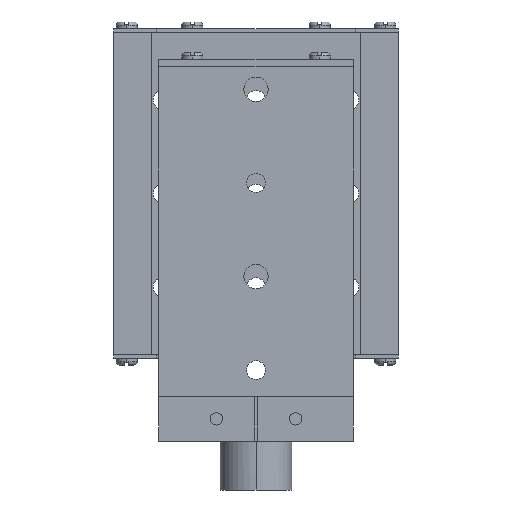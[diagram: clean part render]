
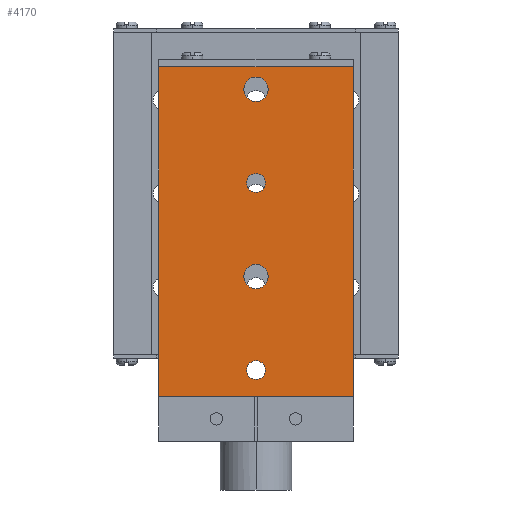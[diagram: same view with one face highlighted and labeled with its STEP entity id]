
A CAD part, left-side view. The second image highlights one B-rep face of the part: STEP entity #4170.
In plain terms, the highlighted planar face has unit normal (-1, 0, 0).
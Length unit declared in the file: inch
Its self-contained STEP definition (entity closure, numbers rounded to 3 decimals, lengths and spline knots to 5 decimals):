
#567=DIRECTION('',(0.,0.,1.));
#568=VECTOR('',#567,3.46457);
#569=CARTESIAN_POINT('',(0.,1.02362,0.));
#570=LINE('',#569,#568);
#571=CARTESIAN_POINT('',(0.,0.,2.24409));
#572=DIRECTION('',(1.,0.,0.));
#573=DIRECTION('',(0.,-1.,0.));
#574=AXIS2_PLACEMENT_3D('',#571,#572,#573);
#576=CARTESIAN_POINT('',(0.,0.,2.24409));
#577=DIRECTION('',(1.,0.,0.));
#578=DIRECTION('',(0.,1.,0.));
#579=AXIS2_PLACEMENT_3D('',#576,#577,#578);
#581=CARTESIAN_POINT('',(0.,0.,0.27559));
#582=DIRECTION('',(1.,0.,0.));
#583=DIRECTION('',(0.,-1.,0.));
#584=AXIS2_PLACEMENT_3D('',#581,#582,#583);
#586=CARTESIAN_POINT('',(0.,0.,0.27559));
#587=DIRECTION('',(1.,0.,0.));
#588=DIRECTION('',(0.,1.,0.));
#589=AXIS2_PLACEMENT_3D('',#586,#587,#588);
#591=CARTESIAN_POINT('',(0.,0.,1.25984));
#592=DIRECTION('',(-1.,0.,0.));
#593=DIRECTION('',(0.,-1.,0.));
#594=AXIS2_PLACEMENT_3D('',#591,#592,#593);
#596=CARTESIAN_POINT('',(0.,0.,1.25984));
#597=DIRECTION('',(-1.,0.,0.));
#598=DIRECTION('',(0.,1.,0.));
#599=AXIS2_PLACEMENT_3D('',#596,#597,#598);
#601=CARTESIAN_POINT('',(0.,0.,3.22835));
#602=DIRECTION('',(-1.,0.,0.));
#603=DIRECTION('',(0.,-1.,0.));
#604=AXIS2_PLACEMENT_3D('',#601,#602,#603);
#606=CARTESIAN_POINT('',(0.,0.,3.22835));
#607=DIRECTION('',(-1.,0.,0.));
#608=DIRECTION('',(0.,1.,0.));
#609=AXIS2_PLACEMENT_3D('',#606,#607,#608);
#619=DIRECTION('',(0.,-1.,0.));
#620=VECTOR('',#619,2.04724);
#621=CARTESIAN_POINT('',(0.,1.02362,0.));
#622=LINE('',#621,#620);
#1444=DIRECTION('',(0.,0.,1.));
#1445=VECTOR('',#1444,3.46457);
#1446=CARTESIAN_POINT('',(0.,-1.02362,0.));
#1447=LINE('',#1446,#1445);
#1460=DIRECTION('',(0.,-1.,0.));
#1461=VECTOR('',#1460,2.04724);
#1462=CARTESIAN_POINT('',(0.,1.02362,3.46457));
#1463=LINE('',#1462,#1461);
#2805=CARTESIAN_POINT('',(0.,1.02362,0.));
#2806=CARTESIAN_POINT('',(0.,-1.02362,0.));
#2807=VERTEX_POINT('',#2805);
#2808=VERTEX_POINT('',#2806);
#2809=CARTESIAN_POINT('',(0.,1.02362,3.46457));
#2810=CARTESIAN_POINT('',(0.,-1.02362,3.46457));
#2811=VERTEX_POINT('',#2809);
#2812=VERTEX_POINT('',#2810);
#2833=CARTESIAN_POINT('',(0.,-0.09843,2.24409));
#2834=CARTESIAN_POINT('',(0.,0.09843,2.24409));
#2835=VERTEX_POINT('',#2833);
#2836=VERTEX_POINT('',#2834);
#2837=CARTESIAN_POINT('',(0.,-0.09843,0.27559));
#2838=CARTESIAN_POINT('',(0.,0.09843,0.27559));
#2839=VERTEX_POINT('',#2837);
#2840=VERTEX_POINT('',#2838);
#2841=CARTESIAN_POINT('',(0.,-0.12795,1.25984));
#2842=CARTESIAN_POINT('',(0.,0.12795,1.25984));
#2843=VERTEX_POINT('',#2841);
#2844=VERTEX_POINT('',#2842);
#2845=CARTESIAN_POINT('',(0.,-0.12795,3.22835));
#2846=CARTESIAN_POINT('',(0.,0.12795,3.22835));
#2847=VERTEX_POINT('',#2845);
#2848=VERTEX_POINT('',#2846);
#4134=CARTESIAN_POINT('',(0.,1.02362,0.));
#4135=DIRECTION('',(-1.,0.,0.));
#4136=DIRECTION('',(0.,-1.,0.));
#4137=AXIS2_PLACEMENT_3D('',#4134,#4135,#4136);
#4138=PLANE('',#4137);
#4140=ORIENTED_EDGE('',*,*,#4139,.F.);
#4141=ORIENTED_EDGE('',*,*,#3828,.T.);
#4143=ORIENTED_EDGE('',*,*,#4142,.T.);
#4145=ORIENTED_EDGE('',*,*,#4144,.F.);
#4146=EDGE_LOOP('',(#4140,#4141,#4143,#4145));
#4147=FACE_OUTER_BOUND('',#4146,.F.);
#4149=ORIENTED_EDGE('',*,*,#4148,.F.);
#4151=ORIENTED_EDGE('',*,*,#4150,.F.);
#4152=EDGE_LOOP('',(#4149,#4151));
#4153=FACE_BOUND('',#4152,.F.);
#4155=ORIENTED_EDGE('',*,*,#4154,.F.);
#4157=ORIENTED_EDGE('',*,*,#4156,.F.);
#4158=EDGE_LOOP('',(#4155,#4157));
#4159=FACE_BOUND('',#4158,.F.);
#4161=ORIENTED_EDGE('',*,*,#4160,.T.);
#4163=ORIENTED_EDGE('',*,*,#4162,.T.);
#4164=EDGE_LOOP('',(#4161,#4163));
#4165=FACE_BOUND('',#4164,.F.);
#4166=ORIENTED_EDGE('',*,*,#4128,.T.);
#4167=ORIENTED_EDGE('',*,*,#4114,.T.);
#4168=EDGE_LOOP('',(#4166,#4167));
#4169=FACE_BOUND('',#4168,.F.);
#4170=ADVANCED_FACE('',(#4147,#4153,#4159,#4165,#4169),#4138,.T.);
#575=CIRCLE('',#574,0.09843);
#580=CIRCLE('',#579,0.09843);
#585=CIRCLE('',#584,0.09843);
#590=CIRCLE('',#589,0.09843);
#595=CIRCLE('',#594,0.12795);
#600=CIRCLE('',#599,0.12795);
#605=CIRCLE('',#604,0.12795);
#610=CIRCLE('',#609,0.12795);
#3828=EDGE_CURVE('',#2807,#2811,#570,.T.);
#4114=EDGE_CURVE('',#2848,#2847,#610,.T.);
#4128=EDGE_CURVE('',#2847,#2848,#605,.T.);
#4139=EDGE_CURVE('',#2807,#2808,#622,.T.);
#4142=EDGE_CURVE('',#2811,#2812,#1463,.T.);
#4144=EDGE_CURVE('',#2808,#2812,#1447,.T.);
#4148=EDGE_CURVE('',#2835,#2836,#575,.T.);
#4150=EDGE_CURVE('',#2836,#2835,#580,.T.);
#4154=EDGE_CURVE('',#2839,#2840,#585,.T.);
#4156=EDGE_CURVE('',#2840,#2839,#590,.T.);
#4160=EDGE_CURVE('',#2843,#2844,#595,.T.);
#4162=EDGE_CURVE('',#2844,#2843,#600,.T.);
